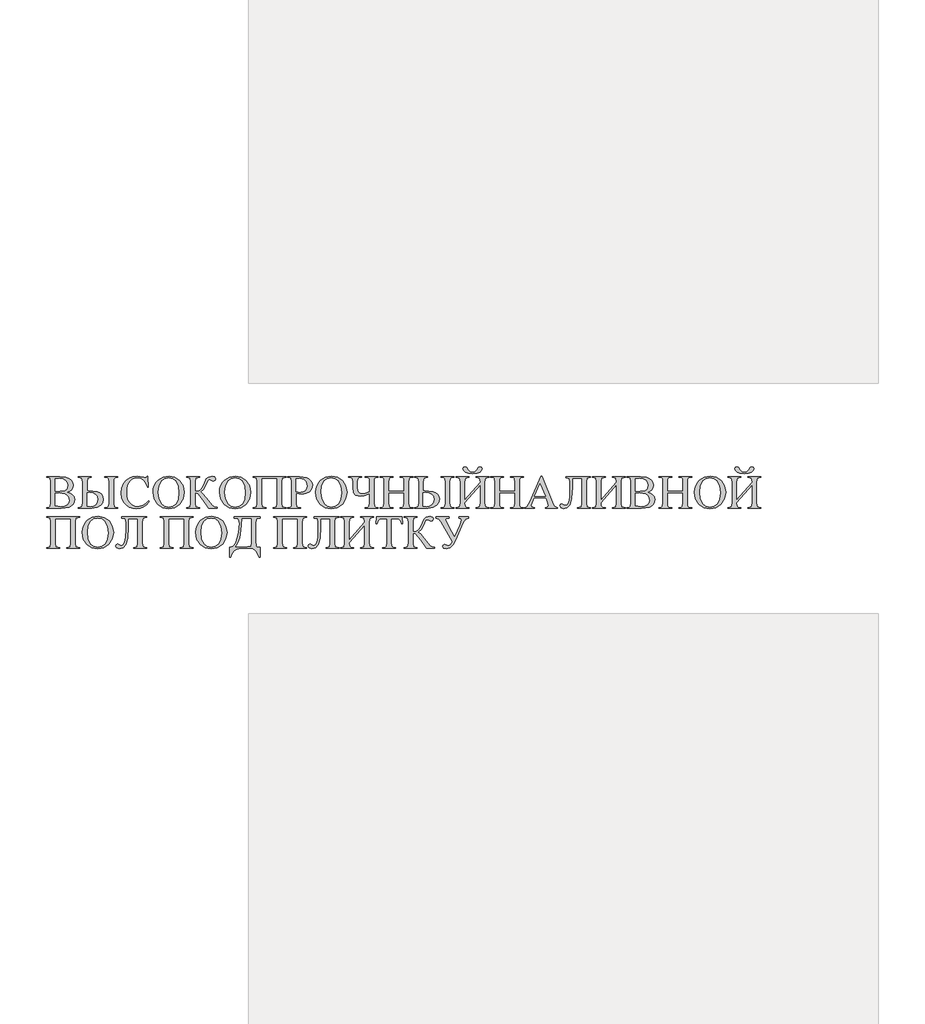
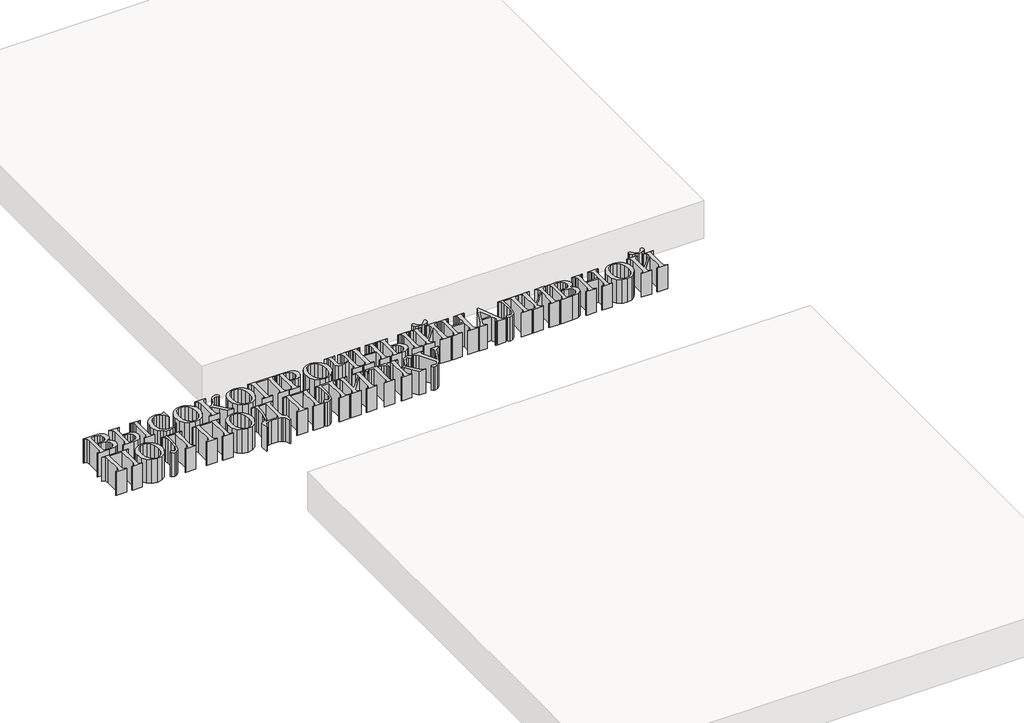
# One storey, part 8 of 17: 1 proxy.
"""IFC4 building model written with IfcOpenShell, lengths in millimetres."""

import ifcopenshell
import ifcopenshell.guid

model = None  # the IFC model being written
_history = None  # IfcOwnerHistory: only IFC2X3 demands one
_inside = {}  # id of a spatial element -> (the spatial element, [elements in it])
_under = {}  # id of a project, library or spatial element -> (it, [spatial elements below it])
_declared = {}  # id of a project -> (the project, [libraries it declares])
_typed = {}  # id of a type object -> (the type object, [elements of that type])
_made_of = {}  # id of a material, layer set ... -> (it, [elements and type objects made of it])


def new_model(schema):
    """Start an empty IFC model of exactly this schema.

    Asked for "IFC4X3", IfcOpenShell would pick the latest addendum, in which some entities
    have other attributes; the version numbers below select the first issue.
    IFC2X3 requires an IfcOwnerHistory on every rooted entity: one is made here for all.
    """
    global model, _history
    if schema == "IFC4X3":
        model = ifcopenshell.file(schema_version=(4, 3, 0, 0))
    else:
        model = ifcopenshell.file(schema=schema)
    _inside.clear()
    _under.clear()
    _declared.clear()
    _typed.clear()
    _made_of.clear()
    _history = None
    if model.schema == "IFC2X3":
        org = make("IfcOrganization", Name="unknown")
        user = make(
            "IfcPersonAndOrganization",
            ThePerson=make("IfcPerson", FamilyName="unknown"),
            TheOrganization=org,
        )
        app = make(
            "IfcApplication",
            ApplicationDeveloper=org,
            Version="unknown",
            ApplicationFullName="unknown",
            ApplicationIdentifier="unknown",
        )
        _history = make(
            "IfcOwnerHistory",
            OwningUser=user,
            OwningApplication=app,
            ChangeAction="ADDED",
            CreationDate=0,
        )
    return model


def make(cls, **values):
    """One entity of the class cls with the attributes given. An attribute that is None is left unset."""
    return model.create_entity(
        cls, **{name: value for name, value in values.items() if value is not None}
    )


def rooted(cls, **values):
    """An entity with a GlobalId (a new one), such as an element, a storey or a relation."""
    return make(cls, GlobalId=ifcopenshell.guid.new(), OwnerHistory=_history, **values)


def si_unit(unit_type, name, prefix=None):
    """IfcSIUnit, for example si_unit("LENGTHUNIT", "METRE", prefix="MILLI")."""
    return make("IfcSIUnit", UnitType=unit_type, Prefix=prefix, Name=name)


def assignment(units):
    """IfcUnitAssignment: the units of a project."""
    return None if units is None else make("IfcUnitAssignment", Units=units)


def point(xyz):
    """IfcCartesianPoint."""
    return None if xyz is None else make("IfcCartesianPoint", Coordinates=xyz)


def direction(xyz):
    """IfcDirection."""
    return None if xyz is None else make("IfcDirection", DirectionRatios=xyz)


def frame(location, z_axis=None, x_axis=None):
    """IfcAxis2Placement3D, a coordinate frame: its origin and axes. An axis left out is left unset."""
    return make(
        "IfcAxis2Placement3D",
        Location=point(location),
        Axis=direction(z_axis),
        RefDirection=direction(x_axis),
    )


def origin():
    """The frame at (0, 0, 0) with its axes left unset."""
    return frame((0.0, 0.0, 0.0))


def origin_with_axes():
    """The frame at (0, 0, 0) with the z axis (0, 0, 1) and the x axis (1, 0, 0) written out."""
    return frame((0.0, 0.0, 0.0), z_axis=(0.0, 0.0, 1.0), x_axis=(1.0, 0.0, 0.0))


def place(relative_to, where):
    """IfcLocalPlacement: puts the frame where relative to a parent placement (None: the world)."""
    return make(
        "IfcLocalPlacement", PlacementRelTo=relative_to, RelativePlacement=where
    )


def context(
    kind, dimensions, precision=None, world=None, true_north=None, identifier=None
):
    """IfcGeometricRepresentationContext, for example the 3D "Model" context."""
    return make(
        "IfcGeometricRepresentationContext",
        ContextIdentifier=identifier,
        ContextType=kind,
        CoordinateSpaceDimension=dimensions,
        Precision=precision,
        WorldCoordinateSystem=world,
        TrueNorth=true_north,
    )


def project(units=None, contexts=None):
    """IfcProject with its units and contexts."""
    return rooted(
        "IfcProject",
        Name="project",
        RepresentationContexts=contexts,
        UnitsInContext=assignment(units),
    )


def spatial(cls, under=None, at=None, **own):
    """A site, building, storey or space (cls), placed at a placement, below another one or the project."""
    s = rooted(cls, ObjectPlacement=at, **own)
    if under is not None:
        _under.setdefault(under.id(), (under, []))[1].append(s)
    return s


def polyline(points):
    """IfcPolyline through the points."""
    return make("IfcPolyline", Points=[point(p) for p in points])


def outline(outer, holes=None, kind="AREA"):
    """IfcArbitraryClosedProfileDef: a profile drawn as a closed curve; with holes, ...WithVoids."""
    if holes is None:
        return make("IfcArbitraryClosedProfileDef", ProfileType=kind, OuterCurve=outer)
    return make(
        "IfcArbitraryProfileDefWithVoids",
        ProfileType=kind,
        OuterCurve=outer,
        InnerCurves=holes,
    )


def extrude(swept, where, along, depth):
    """IfcExtrudedAreaSolid: the profile swept, set in the frame where, extruded along a direction by depth."""
    return make(
        "IfcExtrudedAreaSolid",
        SweptArea=swept,
        Position=where,
        ExtrudedDirection=direction(along),
        Depth=depth,
    )


def shape(context_of_items, identifier, shape_type, items):
    """IfcShapeRepresentation: the items that make up one representation, for example the "Body"."""
    return make(
        "IfcShapeRepresentation",
        ContextOfItems=context_of_items,
        RepresentationIdentifier=identifier,
        RepresentationType=shape_type,
        Items=items,
    )


def made_of(thing, what):
    """Note that an element or type object is made of a material, layer set ...; save() writes the relation."""
    if what is not None:
        _made_of.setdefault(what.id(), (what, []))[1].append(thing)
    return thing


def element(
    cls,
    number,
    at=None,
    inside=None,
    cuts=None,
    type_object=None,
    material=None,
    context=None,
    identifier="Body",
    shape_type=None,
    held_by="IfcProductDefinitionShape",
    body=None,
    shapes=None,
    **own,
):
    """One element of the class cls, such as IfcWall. Its Tag is "e" and its number.

    at: its placement. inside: the storey or other place that contains it. cuts: it is an
    opening in that element (IfcRelVoidsElement). A single representation is given by context,
    identifier, shape_type and body (its items); several are given by shapes. held_by: the class
    of the entity that holds the representations. save() writes the other relations.
    """
    e = rooted(cls, Tag="e%d" % number, ObjectPlacement=at, **own)
    if body is not None:
        shapes = [shape(context, identifier, shape_type, body)]
    if shapes is not None:
        e.Representation = make(held_by, Representations=shapes)
    if inside is not None:
        _inside.setdefault(inside.id(), (inside, []))[1].append(e)
    if cuts is not None:
        rooted(
            "IfcRelVoidsElement", RelatingBuildingElement=cuts, RelatedOpeningElement=e
        )
    if type_object is not None:
        _typed.setdefault(type_object.id(), (type_object, []))[1].append(e)
    return made_of(e, material)


def aggregate(whole, parts):
    """IfcRelAggregates: a whole, such as a stair, and the parts it consists of."""
    return rooted("IfcRelAggregates", RelatingObject=whole, RelatedObjects=parts)


def save(model, path):
    """Write the relations noted so far, then the file.

    IfcRelAggregates (storeys below a building ...), IfcRelContainedInSpatialStructure (elements
    in a storey), IfcRelDefinesByType, IfcRelAssociatesMaterial and IfcRelDeclares: one each for
    every whole, place, type object, material and project.
    """
    for whole, parts in _under.values():
        aggregate(whole, parts)
    for where, things in _inside.values():
        rooted(
            "IfcRelContainedInSpatialStructure",
            RelatedElements=things,
            RelatingStructure=where,
        )
    for kind, things in _typed.values():
        rooted("IfcRelDefinesByType", RelatedObjects=things, RelatingType=kind)
    for what, things in _made_of.values():
        rooted("IfcRelAssociatesMaterial", RelatedObjects=things, RelatingMaterial=what)
    for by, libraries in _declared.values():
        rooted("IfcRelDeclares", RelatingContext=by, RelatedDefinitions=libraries)
    model.write(path)


model = new_model("IFC4")

# Units and contexts
model_context = context("Model", 3, world=origin())
ifc_project = project(units=[si_unit("LENGTHUNIT", "METRE", prefix="MILLI")], contexts=[model_context])

# Site, building, storey
site = spatial("IfcSite", under=ifc_project)
building = spatial("IfcBuilding", under=site)
storey = spatial("IfcBuildingStorey", under=building, Name="Уровень 1", Elevation=0.0)

# Proxy
placement = place(None, origin())
element("IfcBuildingElementProxy", 1, Name="SG_Текст 2", ObjectType="SG_Текст 2", at=placement, inside=storey, context=model_context, shape_type="SweptSolid", body=[
    extrude(outline(polyline([(-8176.1512491, 13445.5594275), (-8162.4340903, 13441.3155558), (-8152.6591062, 13435.1005967), (-8144.5434558, 13423.9679759), (-8141.838239, 13410.602797), (-8143.5931101, 13399.8472975), (-8148.8577235, 13389.5443436), (-8157.1795336, 13380.8303274), (-8168.1059947, 13374.8416411), (-8205.4762015, 13370.2156198), (-8275.7112726, 13370.2156198), (-8275.7112726, 13372.7901012), (-8270.3611784, 13372.7901012), (-8262.688017, 13374.3287561), (-8257.5289976, 13378.9447209), (-8255.1154213, 13395.960434), (-8255.1154213, 13493.7907277), (-8258.1726179, 13511.9327764), (-8270.3611784, 13516.9610604), (-8275.7112726, 13516.9610604), (-8275.7112726, 13519.5355419), (-8211.8319525, 13519.5355419), (-8183.1506205, 13516.8806079), (-8168.7194454, 13511.3142975), (-8158.1701055, 13502.6606207), (-8151.7137888, 13491.6939333), (-8149.5616833, 13479.1885909), (-8151.2461584, 13468.4381197), (-8156.2995838, 13458.8743235), (-8164.6314505, 13451.0603702), (-8176.1512491, 13445.5594275)]), holes=[polyline([(-8234.5195699, 13451.5933683), (-8225.1066223, 13450.4268064), (-8213.4812296, 13450.0245437), (-8189.0035431, 13453.5242293), (-8182.1751334, 13457.9491193), (-8178.0619971, 13464.2244177), (-8175.3064974, 13479.9931164), (-8177.8709223, 13492.2168748), (-8185.5641968, 13502.4997156), (-8198.1751331, 13509.4840021), (-8215.4925432, 13511.8120976), (-8234.5195699, 13509.358295), (-8234.5195699, 13451.5933683)]), polyline([(-8234.5195699, 13380.8755819), (-8208.9758872, 13377.9390641), (-8191.18079, 13380.1565373), (-8178.1826759, 13386.8089571), (-8170.2329588, 13396.7197048), (-8167.5830532, 13408.7121622), (-8172.430319, 13425.2250469), (-8178.7659568, 13432.3249839), (-8188.0783388, 13437.7354175), (-8214.8086966, 13442.3010994), (-8226.6151075, 13442.0798549), (-8234.5195699, 13441.3356689), (-8234.5195699, 13380.8755819)])]), origin_with_axes(), (0.0, 0.0, 1.0), 150.0),
    extrude(outline(polyline([(-8082.6251665, 13452.5990251), (-8076.5107731, 13452.5990251), (-8035.1983917, 13449.1194525), (-8023.2260475, 13444.045914), (-8013.6974493, 13435.7844433), (-8007.4674054, 13424.943463), (-8005.3907241, 13412.1313953), (-8008.4831187, 13396.4582341), (-8017.7603027, 13382.8265561), (-8034.6100825, 13373.3683539), (-8060.4202643, 13370.2156198), (-8123.8168691, 13370.2156198), (-8123.8168691, 13372.7901012), (-8106.9017217, 13377.194878), (-8103.2210178, 13395.960434), (-8103.2210178, 13493.7907277), (-8106.9017217, 13512.5562836), (-8123.8168691, 13516.9610604), (-8123.8168691, 13519.5355419), (-8062.0293152, 13519.5355419), (-8062.0293152, 13516.9610604), (-8078.9444626, 13512.5562836), (-8082.6251665, 13493.7907277), (-8082.6251665, 13452.5990251)]), holes=[polyline([(-8082.6251665, 13379.5078887), (-8067.2587306, 13377.9390641), (-8054.1198244, 13380.2118484), (-8042.2983287, 13387.0302016), (-8033.9262358, 13397.8611253), (-8031.1355382, 13412.1716216), (-8034.0519429, 13426.6681644), (-8042.8011571, 13436.8504396), (-8056.0356006, 13442.8692955), (-8072.4076934, 13444.8755808), (-8082.6251665, 13443.9906028), (-8082.6251665, 13379.5078887)])]), origin_with_axes(), (0.0, 0.0, 1.0), 150.0),
    extrude(outline(polyline([(-7935.8797259, 13372.7901012), (-7935.8797259, 13370.2156198), (-7997.6672798, 13370.2156198), (-7997.6672798, 13372.7901012), (-7993.403295, 13372.7901012), (-7983.4472926, 13375.0628856), (-7978.2983298, 13380.9962607), (-7977.0714285, 13395.960434), (-7977.0714285, 13494.1929904), (-7978.3988955, 13508.9962586), (-7983.6081977, 13514.9497468), (-7994.3687255, 13516.9610604), (-7997.6672798, 13516.9610604), (-7997.6672798, 13519.5355419), (-7935.8797259, 13519.5355419), (-7935.8797259, 13516.9610604), (-7939.0576014, 13516.9610604), (-7949.6773372, 13514.9095206), (-7955.0475445, 13508.915806), (-7956.4755772, 13493.7907277), (-7956.4755772, 13395.960434), (-7953.1770229, 13377.4764619), (-7947.9978903, 13373.9616914), (-7939.0576014, 13372.7901012), (-7935.8797259, 13372.7901012)])), origin_with_axes(), (0.0, 0.0, 1.0), 150.0),
    extrude(outline(polyline([(-7794.2832481, 13522.1100233), (-7791.7087667, 13470.620395), (-7794.2832481, 13470.620395), (-7802.3938702, 13490.6480502), (-7813.3706142, 13504.1489928), (-7827.0123487, 13511.8271825), (-7843.1179424, 13514.386579), (-7856.9809214, 13512.5311422), (-7869.4460375, 13506.9648318), (-7879.9551511, 13497.3306397), (-7887.9501227, 13483.2715576), (-7893.0035481, 13465.0138583), (-7894.6880232, 13442.7838147), (-7893.0840006, 13424.1590507), (-7888.2719328, 13408.1892207), (-7880.2317067, 13395.2564742), (-7868.9432091, 13385.7429608), (-7855.1254846, 13379.8900383), (-7839.4975779, 13377.9390641), (-7814.1349134, 13383.6310816), (-7802.5950015, 13392.1339098), (-7789.979037, 13406.2583596), (-7786.5598038, 13403.6838782), (-7798.67294, 13387.4877754), (-7812.6465413, 13376.3099), (-7828.9532663, 13369.8083288), (-7848.0657739, 13367.6411384), (-7865.506377, 13369.3432125), (-7880.8602422, 13374.449435), (-7894.1273696, 13382.9598056), (-7905.3077591, 13394.8743246), (-7916.6515678, 13416.9384349), (-7920.4328374, 13442.5826833), (-7917.9337802, 13463.8070701), (-7910.4366088, 13483.2313313), (-7898.5547736, 13499.6687917), (-7882.9017255, 13511.9327764), (-7864.5484889, 13519.5657116), (-7844.5660882, 13522.1100233), (-7812.7068807, 13516.1967613), (-7806.1097721, 13514.386579), (-7800.920583, 13515.9554036), (-7796.8577295, 13522.1100233), (-7794.2832481, 13522.1100233)])), origin_with_axes(), (0.0, 0.0, 1.0), 150.0),
    extrude(outline(polyline([(-7692.4303271, 13522.1100233), (-7664.7244822, 13516.6493068), (-7640.9809251, 13500.2671575), (-7624.6591152, 13475.719075), (-7619.2185119, 13445.7605588), (-7624.6993415, 13414.9522627), (-7641.1418302, 13389.8661537), (-7665.3681026, 13373.1973922), (-7694.2002831, 13367.6411384), (-7723.1782839, 13373.0616286), (-7747.117944, 13389.3230991), (-7763.1833115, 13414.1929918), (-7768.5384339, 13445.4387486), (-7766.9922366, 13462.21059), (-7762.3536446, 13477.3683521), (-7754.6226579, 13490.9120351), (-7743.7992766, 13502.8416389), (-7720.2166246, 13517.2929272), (-7692.4303271, 13522.1100233)]), holes=[polyline([(-7694.5623195, 13514.386579), (-7713.0060653, 13510.7058751), (-7727.3869576, 13499.6637634), (-7738.9419542, 13477.0666551), (-7742.7936198, 13445.9616902), (-7738.8011623, 13413.9214645), (-7726.8237898, 13390.2080771), (-7712.593746, 13379.0754562), (-7694.4416407, 13375.3645826), (-7674.8313331, 13379.4274361), (-7658.9620687, 13391.6159966), (-7648.4630117, 13412.5638278), (-7644.963326, 13442.9044935), (-7648.8149916, 13476.0509417), (-7660.3699883, 13499.5430846), (-7675.0928038, 13510.6757054), (-7694.5623195, 13514.386579)])]), origin_with_axes(), (0.0, 0.0, 1.0), 150.0),
    extrude(outline(polyline([(-7463.5428389, 13374.3186996), (-7463.5428389, 13370.2156198), (-7502.5220965, 13370.2156198), (-7529.3127937, 13408.0484287), (-7554.2128562, 13439.0226582), (-7567.7288836, 13442.3010994), (-7567.7288836, 13395.960434), (-7564.1085191, 13377.194878), (-7547.1330323, 13372.7901012), (-7547.1330323, 13370.2156198), (-7608.9205862, 13370.2156198), (-7608.9205862, 13372.7901012), (-7592.0456651, 13377.1546518), (-7588.3247349, 13395.960434), (-7588.3247349, 13493.7907277), (-7592.0054388, 13512.5562836), (-7608.9205862, 13516.9610604), (-7608.9205862, 13519.5355419), (-7547.1330323, 13519.5355419), (-7547.1330323, 13516.9610604), (-7564.1085191, 13512.5562836), (-7567.7288836, 13493.7907277), (-7567.7288836, 13450.0245437), (-7550.8539625, 13451.6537077), (-7540.3146792, 13458.5726265), (-7531.0425234, 13470.2181323), (-7522.2731961, 13490.733531), (-7514.0670366, 13509.358295), (-7503.8495635, 13518.3488668), (-7487.1154343, 13522.1100233), (-7474.202801, 13519.0126003), (-7469.8985899, 13509.7203315), (-7473.2977098, 13502.1577923), (-7481.0814935, 13498.9396905), (-7491.5805505, 13503.002544), (-7500.5912355, 13506.6631348), (-7506.7458551, 13502.9220915), (-7514.9117883, 13483.8548385), (-7527.1003488, 13460.4733178), (-7542.2656534, 13447.5305148), (-7531.565465, 13438.7410743), (-7515.6358612, 13418.9698616), (-7486.5522665, 13383.4098371), (-7476.0934358, 13376.7322759), (-7463.5428389, 13374.3186996)])), origin_with_axes(), (0.0, 0.0, 1.0), 150.0),
    extrude(outline(polyline([(-7375.7691131, 13522.1100233), (-7348.0632682, 13516.6493068), (-7324.3197111, 13500.2671575), (-7307.9979012, 13475.719075), (-7302.5572979, 13445.7605588), (-7308.0381275, 13414.9522627), (-7324.4806162, 13389.8661537), (-7348.7068886, 13373.1973922), (-7377.5390691, 13367.6411384), (-7406.5170699, 13373.0616286), (-7430.4567301, 13389.3230991), (-7446.5220975, 13414.1929918), (-7451.87722, 13445.4387486), (-7450.3310226, 13462.21059), (-7445.6924306, 13477.3683521), (-7437.961444, 13490.9120351), (-7427.1380626, 13502.8416389), (-7403.5554106, 13517.2929272), (-7375.7691131, 13522.1100233)]), holes=[polyline([(-7377.9011056, 13514.386579), (-7396.3448513, 13510.7058751), (-7410.7257436, 13499.6637634), (-7422.2807403, 13477.0666551), (-7426.1324058, 13445.9616902), (-7422.1399483, 13413.9214645), (-7410.1625758, 13390.2080771), (-7395.932532, 13379.0754562), (-7377.7804267, 13375.3645826), (-7358.1701191, 13379.4274361), (-7342.3008548, 13391.6159966), (-7331.8017977, 13412.5638278), (-7328.3021121, 13442.9044935), (-7332.1537776, 13476.0509417), (-7343.7087743, 13499.5430846), (-7358.4315899, 13510.6757054), (-7377.9011056, 13514.386579)])]), origin_with_axes(), (0.0, 0.0, 1.0), 150.0),
    extrude(outline(polyline([(-7176.4077086, 13511.8120976), (-7251.0676696, 13511.8120976), (-7251.0676696, 13395.960434), (-7247.4473051, 13377.194878), (-7230.4718183, 13372.7901012), (-7230.4718183, 13370.2156198), (-7292.2593723, 13370.2156198), (-7292.2593723, 13372.7901012), (-7275.3442248, 13377.194878), (-7271.6635209, 13395.960434), (-7271.6635209, 13493.7907277), (-7275.3442248, 13512.5562836), (-7292.2593723, 13516.9610604), (-7292.2593723, 13519.5355419), (-7135.216006, 13519.5355419), (-7135.216006, 13516.9610604), (-7152.1311534, 13512.5562836), (-7155.8118573, 13493.7907277), (-7155.8118573, 13395.960434), (-7152.1311534, 13377.194878), (-7135.216006, 13372.7901012), (-7135.216006, 13370.2156198), (-7197.0035599, 13370.2156198), (-7197.0035599, 13372.7901012), (-7180.1085256, 13377.1546518), (-7176.4077086, 13395.960434), (-7176.4077086, 13511.8120976)])), origin_with_axes(), (0.0, 0.0, 1.0), 150.0),
    extrude(outline(polyline([(-7086.3008591, 13440.4909172), (-7086.3008591, 13395.960434), (-7083.324115, 13377.8183852), (-7071.2160071, 13372.7901012), (-7065.7050078, 13372.7901012), (-7065.7050078, 13370.2156198), (-7127.4925617, 13370.2156198), (-7127.4925617, 13372.7901012), (-7122.062015, 13372.7901012), (-7114.2380051, 13374.3890955), (-7109.0287028, 13379.1860785), (-7106.8967104, 13395.960434), (-7106.8967104, 13493.7907277), (-7109.7527757, 13511.9327764), (-7122.062015, 13516.9610604), (-7127.4925617, 13516.9610604), (-7127.4925617, 13519.5355419), (-7070.5321604, 13519.5355419), (-7037.6069567, 13515.412349), (-7026.5095339, 13509.87118), (-7017.3128025, 13501.4940588), (-7011.1280131, 13490.7988987), (-7009.0664167, 13478.303613), (-7012.3348013, 13461.7454737), (-7022.1399551, 13448.596511), (-7037.9086538, 13440.0132302), (-7059.0676729, 13437.1521366), (-7071.7389486, 13437.9968883), (-7086.3008591, 13440.4909172)]), holes=[polyline([(-7086.3008591, 13447.0880258), (-7074.755919, 13445.4387486), (-7066.1474968, 13444.8755808), (-7054.235492, 13447.1081389), (-7044.0833865, 13453.8058132), (-7037.1292697, 13464.0635126), (-7034.8112308, 13476.976146), (-7039.2361207, 13495.0980816), (-7051.7666045, 13507.6486784), (-7070.2103503, 13511.8120976), (-7086.3008591, 13509.7203315), (-7086.3008591, 13447.0880258)])]), origin_with_axes(), (0.0, 0.0, 1.0), 150.0),
    extrude(outline(polyline([(-6917.5114214, 13522.1100233), (-6889.8055765, 13516.6493068), (-6866.0620194, 13500.2671575), (-6849.7402094, 13475.719075), (-6844.2996061, 13445.7605588), (-6849.7804357, 13414.9522627), (-6866.2229244, 13389.8661537), (-6890.4491968, 13373.1973922), (-6919.2813773, 13367.6411384), (-6948.2593781, 13373.0616286), (-6972.1990383, 13389.3230991), (-6988.2644057, 13414.1929918), (-6993.6195282, 13445.4387486), (-6992.0733308, 13462.21059), (-6987.4347388, 13477.3683521), (-6979.7037522, 13490.9120351), (-6968.8803708, 13502.8416389), (-6945.2977188, 13517.2929272), (-6917.5114214, 13522.1100233)]), holes=[polyline([(-6919.6434138, 13514.386579), (-6938.0871595, 13510.7058751), (-6952.4680518, 13499.6637634), (-6964.0230485, 13477.0666551), (-6967.874714, 13445.9616902), (-6963.8822565, 13413.9214645), (-6951.904884, 13390.2080771), (-6937.6748403, 13379.0754562), (-6919.522735, 13375.3645826), (-6899.9124273, 13379.4274361), (-6884.043163, 13391.6159966), (-6873.544106, 13412.5638278), (-6870.0444203, 13442.9044935), (-6873.8960858, 13476.0509417), (-6885.4510825, 13499.5430846), (-6900.1738981, 13510.6757054), (-6919.6434138, 13514.386579)])]), origin_with_axes(), (0.0, 0.0, 1.0), 150.0),
    extrude(outline(polyline([(-6736.1713867, 13447.4500622), (-6736.1713867, 13493.7907277), (-6737.6396457, 13509.6801052), (-6743.6333602, 13515.0100862), (-6756.7672381, 13516.9610604), (-6756.7672381, 13519.5355419), (-6694.9796841, 13519.5355419), (-6694.9796841, 13516.9610604), (-6708.2141276, 13515.0100862), (-6714.1072765, 13509.4588607), (-6715.5755354, 13493.7907277), (-6715.5755354, 13395.960434), (-6713.8458057, 13379.8095857), (-6707.9526569, 13374.680736), (-6694.9796841, 13372.7901012), (-6694.9796841, 13370.2156198), (-6756.7672381, 13370.2156198), (-6756.7672381, 13372.7901012), (-6743.4121157, 13374.7813017), (-6737.7402113, 13380.0107171), (-6736.1713867, 13395.960434), (-6736.1713867, 13439.726618), (-6761.6647867, 13430.0723127), (-6781.9891107, 13426.8542109), (-6803.5503925, 13432.0836263), (-6813.9086576, 13443.5078876), (-6815.9803106, 13468.1665924), (-6815.9803106, 13493.7907277), (-6817.5089089, 13509.6398789), (-6823.6031891, 13515.0704257), (-6836.5761619, 13516.9610604), (-6836.5761619, 13519.5355419), (-6774.788608, 13519.5355419), (-6774.788608, 13516.9610604), (-6788.3247485, 13514.8894074), (-6794.1977842, 13508.6945615), (-6795.3844593, 13493.388465), (-6795.3844593, 13472.7926137), (-6793.6949558, 13452.2772149), (-6786.7961502, 13442.9648329), (-6773.5818198, 13439.726618), (-6755.7414681, 13441.6574791), (-6736.1713867, 13447.4500622)])), origin_with_axes(), (0.0, 0.0, 1.0), 150.0),
    extrude(outline(polyline([(-6646.0645372, 13450.0245437), (-6571.4045762, 13450.0245437), (-6571.4045762, 13493.7907277), (-6572.7722695, 13509.358295), (-6577.2373857, 13514.2256739), (-6586.891691, 13516.9610604), (-6592.0004275, 13516.9610604), (-6592.0004275, 13519.5355419), (-6530.2128736, 13519.5355419), (-6530.2128736, 13516.9610604), (-6535.3216101, 13516.9610604), (-6544.9759154, 13514.3463528), (-6549.5818236, 13508.8353535), (-6550.8087249, 13493.7907277), (-6550.8087249, 13395.960434), (-6549.4410316, 13380.4330929), (-6545.056368, 13375.5254877), (-6535.3216101, 13372.7901012), (-6530.2128736, 13372.7901012), (-6530.2128736, 13370.2156198), (-6592.0004275, 13370.2156198), (-6592.0004275, 13372.7901012), (-6586.891691, 13372.7901012), (-6579.278869, 13374.1879642), (-6574.0595102, 13378.3815531), (-6571.4045762, 13395.960434), (-6571.4045762, 13442.3010994), (-6646.0645372, 13442.3010994), (-6646.0645372, 13395.960434), (-6644.696844, 13380.4330929), (-6640.271954, 13375.5254877), (-6630.657875, 13372.7901012), (-6625.4686859, 13372.7901012), (-6625.4686859, 13370.2156198), (-6687.2562399, 13370.2156198), (-6687.2562399, 13372.7901012), (-6682.1475033, 13372.7901012), (-6674.4642853, 13374.1879642), (-6669.1946437, 13378.3815531), (-6666.6603885, 13395.960434), (-6666.6603885, 13493.7907277), (-6668.0280818, 13509.358295), (-6672.4127455, 13514.2256739), (-6682.1475033, 13516.9610604), (-6687.2562399, 13516.9610604), (-6687.2562399, 13519.5355419), (-6625.4686859, 13519.5355419), (-6625.4686859, 13516.9610604), (-6630.657875, 13516.9610604), (-6640.271954, 13514.3463528), (-6644.7974097, 13508.8353535), (-6646.0645372, 13493.7907277), (-6646.0645372, 13450.0245437)])), origin_with_axes(), (0.0, 0.0, 1.0), 150.0),
    extrude(outline(polyline([(-6481.2977267, 13452.5990251), (-6475.1833333, 13452.5990251), (-6433.8709519, 13449.1194525), (-6421.8986077, 13444.045914), (-6412.3700095, 13435.7844433), (-6406.1399656, 13424.943463), (-6404.0632843, 13412.1313953), (-6407.1556789, 13396.4582341), (-6416.4328629, 13382.8265561), (-6433.2826427, 13373.3683539), (-6459.0928245, 13370.2156198), (-6522.4894293, 13370.2156198), (-6522.4894293, 13372.7901012), (-6505.5742819, 13377.194878), (-6501.893578, 13395.960434), (-6501.893578, 13493.7907277), (-6505.5742819, 13512.5562836), (-6522.4894293, 13516.9610604), (-6522.4894293, 13519.5355419), (-6460.7018754, 13519.5355419), (-6460.7018754, 13516.9610604), (-6477.6170228, 13512.5562836), (-6481.2977267, 13493.7907277), (-6481.2977267, 13452.5990251)]), holes=[polyline([(-6481.2977267, 13379.5078887), (-6465.9312908, 13377.9390641), (-6452.7923846, 13380.2118484), (-6440.9708889, 13387.0302016), (-6432.598796, 13397.8611253), (-6429.8080984, 13412.1716216), (-6432.7245031, 13426.6681644), (-6441.4737173, 13436.8504396), (-6454.7081608, 13442.8692955), (-6471.0802536, 13444.8755808), (-6481.2977267, 13443.9906028), (-6481.2977267, 13379.5078887)])]), origin_with_axes(), (0.0, 0.0, 1.0), 150.0),
    extrude(outline(polyline([(-6334.5522861, 13372.7901012), (-6334.5522861, 13370.2156198), (-6396.33984, 13370.2156198), (-6396.33984, 13372.7901012), (-6392.0758552, 13372.7901012), (-6382.1198528, 13375.0628856), (-6376.97089, 13380.9962607), (-6375.7439887, 13395.960434), (-6375.7439887, 13494.1929904), (-6377.0714557, 13508.9962586), (-6382.2807579, 13514.9497468), (-6393.0412857, 13516.9610604), (-6396.33984, 13516.9610604), (-6396.33984, 13519.5355419), (-6334.5522861, 13519.5355419), (-6334.5522861, 13516.9610604), (-6337.7301616, 13516.9610604), (-6348.3498974, 13514.9095206), (-6353.7201047, 13508.915806), (-6355.1481374, 13493.7907277), (-6355.1481374, 13395.960434), (-6351.8495831, 13377.4764619), (-6346.6704506, 13373.9616914), (-6337.7301616, 13372.7901012), (-6334.5522861, 13372.7901012)])), origin_with_axes(), (0.0, 0.0, 1.0), 150.0),
    extrude(outline(polyline([(-6209.6094849, 13568.4506887), (-6203.3140734, 13565.5543971), (-6200.6792525, 13558.7159309), (-6203.379441, 13549.6650197), (-6211.4800066, 13541.9818017), (-6225.4435513, 13536.7322732), (-6245.7326773, 13534.9824303), (-6266.0972275, 13536.7322732), (-6280.0456874, 13541.9818017), (-6288.1009984, 13549.6650197), (-6290.786102, 13558.7159309), (-6288.2116206, 13565.4940577), (-6281.7351908, 13568.4506887), (-6275.1179691, 13565.6951891), (-6267.3341854, 13553.5267418), (-6258.4140096, 13543.4802303), (-6245.7326773, 13540.1313932), (-6233.1116844, 13543.4802303), (-6224.1311692, 13553.5267418), (-6216.5284037, 13565.7555285), (-6209.6094849, 13568.4506887)])), origin_with_axes(), (0.0, 0.0, 1.0), 150.0),
    extrude(outline(polyline([(-6208.4026968, 13493.7907277), (-6212.4856634, 13512.9384332), (-6228.9985481, 13516.9610604), (-6228.9985481, 13519.5355419), (-6167.2109941, 13519.5355419), (-6167.2109941, 13516.9610604), (-6184.1261416, 13512.5562836), (-6187.8068455, 13493.7907277), (-6187.8068455, 13395.960434), (-6184.1261416, 13377.194878), (-6167.2109941, 13372.7901012), (-6167.2109941, 13370.2156198), (-6228.9985481, 13370.2156198), (-6228.9985481, 13372.7901012), (-6212.0230613, 13377.2552174), (-6208.4026968, 13395.960434), (-6208.4026968, 13480.9183206), (-6283.0626578, 13395.960434), (-6281.8558696, 13381.1370527), (-6276.7471331, 13375.2036776), (-6262.4668065, 13372.7901012), (-6262.4668065, 13370.2156198), (-6324.2543604, 13370.2156198), (-6324.2543604, 13372.7901012), (-6307.339213, 13377.194878), (-6303.6585091, 13395.960434), (-6303.6585091, 13493.7907277), (-6307.339213, 13512.5562836), (-6324.2543604, 13516.9610604), (-6324.2543604, 13519.5355419), (-6262.4668065, 13519.5355419), (-6262.4668065, 13516.9610604), (-6279.402067, 13512.5562836), (-6283.0626578, 13493.7907277), (-6283.0626578, 13408.832841), (-6208.4026968, 13493.7907277)])), origin_with_axes(), (0.0, 0.0, 1.0), 150.0),
    extrude(outline(polyline([(-6118.2958473, 13450.0245437), (-6043.6358863, 13450.0245437), (-6043.6358863, 13493.7907277), (-6045.0035795, 13509.358295), (-6049.4686957, 13514.2256739), (-6059.123001, 13516.9610604), (-6064.2317376, 13516.9610604), (-6064.2317376, 13519.5355419), (-6002.4441836, 13519.5355419), (-6002.4441836, 13516.9610604), (-6007.5529202, 13516.9610604), (-6017.2072255, 13514.3463528), (-6021.8131336, 13508.8353535), (-6023.0400349, 13493.7907277), (-6023.0400349, 13395.960434), (-6021.6723417, 13380.4330929), (-6017.287678, 13375.5254877), (-6007.5529202, 13372.7901012), (-6002.4441836, 13372.7901012), (-6002.4441836, 13370.2156198), (-6064.2317376, 13370.2156198), (-6064.2317376, 13372.7901012), (-6059.123001, 13372.7901012), (-6051.510179, 13374.1879642), (-6046.2908202, 13378.3815531), (-6043.6358863, 13395.960434), (-6043.6358863, 13442.3010994), (-6118.2958473, 13442.3010994), (-6118.2958473, 13395.960434), (-6116.928154, 13380.4330929), (-6112.5032641, 13375.5254877), (-6102.8891851, 13372.7901012), (-6097.699996, 13372.7901012), (-6097.699996, 13370.2156198), (-6159.4875499, 13370.2156198), (-6159.4875499, 13372.7901012), (-6154.3788133, 13372.7901012), (-6146.6955954, 13374.1879642), (-6141.4259537, 13378.3815531), (-6138.8916986, 13395.960434), (-6138.8916986, 13493.7907277), (-6140.2593918, 13509.358295), (-6144.6440555, 13514.2256739), (-6154.3788133, 13516.9610604), (-6159.4875499, 13516.9610604), (-6159.4875499, 13519.5355419), (-6097.699996, 13519.5355419), (-6097.699996, 13516.9610604), (-6102.8891851, 13516.9610604), (-6112.5032641, 13514.3463528), (-6117.0287197, 13508.8353535), (-6118.2958473, 13493.7907277), (-6118.2958473, 13450.0245437)])), origin_with_axes(), (0.0, 0.0, 1.0), 150.0),
    extrude(outline(polyline([(-5895.9652414, 13419.1307667), (-5954.2128834, 13419.1307667), (-5963.8269624, 13396.7649594), (-5967.5680057, 13382.8466693), (-5964.3096777, 13376.4104657), (-5950.2304824, 13372.7901012), (-5950.2304824, 13370.2156198), (-5997.6974835, 13370.2156198), (-5997.6974835, 13372.7901012), (-5985.5491493, 13377.4563488), (-5973.0387787, 13400.8278129), (-5920.6641724, 13522.1100233), (-5915.1531732, 13522.1100233), (-5865.9966687, 13398.8567256), (-5854.5321811, 13378.1401954), (-5840.2116282, 13372.7901012), (-5840.2116282, 13370.2156198), (-5899.2235694, 13370.2156198), (-5899.2235694, 13372.7901012), (-5887.1355746, 13376.1087687), (-5883.9778123, 13383.0075743), (-5888.4027022, 13400.1439663), (-5895.9652414, 13419.1307667)]), holes=[polyline([(-5899.0626643, 13426.8542109), (-5923.9225005, 13487.475203), (-5950.8741028, 13426.8542109), (-5899.0626643, 13426.8542109)])]), origin_with_axes(), (0.0, 0.0, 1.0), 150.0),
    extrude(outline(polyline([(-5724.4001909, 13511.8120976), (-5770.7408563, 13511.8120976), (-5770.7408563, 13469.6147382), (-5773.5265257, 13416.9434631), (-5781.8835337, 13386.6882782), (-5795.1380903, 13372.4029234), (-5812.6164056, 13367.6411384), (-5825.4485864, 13371.6235393), (-5829.9539289, 13380.8755819), (-5827.0576373, 13387.8548401), (-5820.0180396, 13390.8114711), (-5812.093464, 13387.1508804), (-5803.0425528, 13383.0880269), (-5794.2078578, 13387.0855127), (-5787.1732885, 13399.07797), (-5782.5724086, 13422.2231614), (-5781.038782, 13459.678849), (-5781.038782, 13491.1357938), (-5784.7194859, 13509.9616891), (-5801.6346333, 13514.386579), (-5801.6346333, 13519.5355419), (-5683.2084882, 13519.5355419), (-5683.2084882, 13516.9610604), (-5700.1236356, 13512.5562836), (-5703.8043395, 13493.7907277), (-5703.8043395, 13395.960434), (-5700.1236356, 13377.194878), (-5683.2084882, 13372.7901012), (-5683.2084882, 13370.2156198), (-5744.9960422, 13370.2156198), (-5744.9960422, 13372.7901012), (-5728.0808948, 13377.194878), (-5724.4001909, 13395.960434), (-5724.4001909, 13511.8120976)])), origin_with_axes(), (0.0, 0.0, 1.0), 150.0),
    extrude(outline(polyline([(-5559.6333803, 13493.7907277), (-5563.716347, 13512.9384332), (-5580.2292316, 13516.9610604), (-5580.2292316, 13519.5355419), (-5518.4416777, 13519.5355419), (-5518.4416777, 13516.9610604), (-5535.3568251, 13512.5562836), (-5539.037529, 13493.7907277), (-5539.037529, 13395.960434), (-5535.3568251, 13377.194878), (-5518.4416777, 13372.7901012), (-5518.4416777, 13370.2156198), (-5580.2292316, 13370.2156198), (-5580.2292316, 13372.7901012), (-5563.2537448, 13377.2552174), (-5559.6333803, 13395.960434), (-5559.6333803, 13480.9183206), (-5634.2933414, 13395.960434), (-5633.0865532, 13381.1370527), (-5627.9778166, 13375.2036776), (-5613.69749, 13372.7901012), (-5613.69749, 13370.2156198), (-5675.485044, 13370.2156198), (-5675.485044, 13372.7901012), (-5658.5698966, 13377.194878), (-5654.8891927, 13395.960434), (-5654.8891927, 13493.7907277), (-5658.5698966, 13512.5562836), (-5675.485044, 13516.9610604), (-5675.485044, 13519.5355419), (-5613.69749, 13519.5355419), (-5613.69749, 13516.9610604), (-5630.6327506, 13512.5562836), (-5634.2933414, 13493.7907277), (-5634.2933414, 13408.832841), (-5559.6333803, 13493.7907277)])), origin_with_axes(), (0.0, 0.0, 1.0), 150.0),
    extrude(outline(polyline([(-5411.15821, 13445.5594275), (-5397.4410512, 13441.3155558), (-5387.6660671, 13435.1005967), (-5379.5504167, 13423.9679759), (-5376.8451999, 13410.602797), (-5378.600071, 13399.8472975), (-5383.8646844, 13389.5443436), (-5392.1864944, 13380.8303274), (-5403.1129556, 13374.8416411), (-5440.4831624, 13370.2156198), (-5510.7182335, 13370.2156198), (-5510.7182335, 13372.7901012), (-5505.3681393, 13372.7901012), (-5497.6949779, 13374.3287561), (-5492.5359585, 13378.9447209), (-5490.1223821, 13395.960434), (-5490.1223821, 13493.7907277), (-5493.1795788, 13511.9327764), (-5505.3681393, 13516.9610604), (-5510.7182335, 13516.9610604), (-5510.7182335, 13519.5355419), (-5446.8389134, 13519.5355419), (-5418.1575814, 13516.8806079), (-5403.7264062, 13511.3142975), (-5393.1770664, 13502.6606207), (-5386.7207497, 13491.6939333), (-5384.5686442, 13479.1885909), (-5386.2531193, 13468.4381197), (-5391.3065447, 13458.8743235), (-5399.6384113, 13451.0603702), (-5411.15821, 13445.5594275)]), holes=[polyline([(-5469.5265308, 13380.8755819), (-5443.982848, 13377.9390641), (-5426.1877509, 13380.1565373), (-5413.1896368, 13386.8089571), (-5405.2399197, 13396.7197048), (-5402.5900141, 13408.7121622), (-5407.4372798, 13425.2250469), (-5413.7729177, 13432.3249839), (-5423.0852997, 13437.7354175), (-5449.8156575, 13442.3010994), (-5461.6220684, 13442.0798549), (-5469.5265308, 13441.3356689), (-5469.5265308, 13380.8755819)]), polyline([(-5469.5265308, 13451.5933683), (-5460.1135832, 13450.4268064), (-5448.4881905, 13450.0245437), (-5424.0105039, 13453.5242293), (-5417.1820943, 13457.9491193), (-5413.0689579, 13464.2244177), (-5410.3134583, 13479.9931164), (-5412.8778831, 13492.2168748), (-5420.5711577, 13502.4997156), (-5433.182094, 13509.4840021), (-5450.4995041, 13511.8120976), (-5469.5265308, 13509.358295), (-5469.5265308, 13451.5933683)])]), origin_with_axes(), (0.0, 0.0, 1.0), 150.0),
    extrude(outline(polyline([(-5317.6321274, 13450.0245437), (-5242.9721664, 13450.0245437), (-5242.9721664, 13493.7907277), (-5244.3398596, 13509.358295), (-5248.8049758, 13514.2256739), (-5258.4592811, 13516.9610604), (-5263.5680177, 13516.9610604), (-5263.5680177, 13519.5355419), (-5201.7804637, 13519.5355419), (-5201.7804637, 13516.9610604), (-5206.8892003, 13516.9610604), (-5216.5435056, 13514.3463528), (-5221.1494137, 13508.8353535), (-5222.376315, 13493.7907277), (-5222.376315, 13395.960434), (-5221.0086218, 13380.4330929), (-5216.6239581, 13375.5254877), (-5206.8892003, 13372.7901012), (-5201.7804637, 13372.7901012), (-5201.7804637, 13370.2156198), (-5263.5680177, 13370.2156198), (-5263.5680177, 13372.7901012), (-5258.4592811, 13372.7901012), (-5250.8464591, 13374.1879642), (-5245.6271003, 13378.3815531), (-5242.9721664, 13395.960434), (-5242.9721664, 13442.3010994), (-5317.6321274, 13442.3010994), (-5317.6321274, 13395.960434), (-5316.2644341, 13380.4330929), (-5311.8395442, 13375.5254877), (-5302.2254652, 13372.7901012), (-5297.0362761, 13372.7901012), (-5297.0362761, 13370.2156198), (-5358.82383, 13370.2156198), (-5358.82383, 13372.7901012), (-5353.7150934, 13372.7901012), (-5346.0318755, 13374.1879642), (-5340.7622338, 13378.3815531), (-5338.2279787, 13395.960434), (-5338.2279787, 13493.7907277), (-5339.5956719, 13509.358295), (-5343.9803356, 13514.2256739), (-5353.7150934, 13516.9610604), (-5358.82383, 13516.9610604), (-5358.82383, 13519.5355419), (-5297.0362761, 13519.5355419), (-5297.0362761, 13516.9610604), (-5302.2254652, 13516.9610604), (-5311.8395442, 13514.3463528), (-5316.3649998, 13508.8353535), (-5317.6321274, 13493.7907277), (-5317.6321274, 13450.0245437)])), origin_with_axes(), (0.0, 0.0, 1.0), 150.0),
    extrude(outline(polyline([(-5112.7999498, 13522.1100233), (-5085.0941049, 13516.6493068), (-5061.3505478, 13500.2671575), (-5045.0287379, 13475.719075), (-5039.5881346, 13445.7605588), (-5045.0689642, 13414.9522627), (-5061.5114529, 13389.8661537), (-5085.7377253, 13373.1973922), (-5114.5699058, 13367.6411384), (-5143.5479066, 13373.0616286), (-5167.4875668, 13389.3230991), (-5183.5529342, 13414.1929918), (-5188.9080567, 13445.4387486), (-5187.3618593, 13462.21059), (-5182.7232673, 13477.3683521), (-5174.9922806, 13490.9120351), (-5164.1688993, 13502.8416389), (-5140.5862473, 13517.2929272), (-5112.7999498, 13522.1100233)]), holes=[polyline([(-5114.9319423, 13514.386579), (-5133.375688, 13510.7058751), (-5147.7565803, 13499.6637634), (-5159.311577, 13477.0666551), (-5163.1632425, 13445.9616902), (-5159.170785, 13413.9214645), (-5147.1934125, 13390.2080771), (-5132.9633687, 13379.0754562), (-5114.8112634, 13375.3645826), (-5095.2009558, 13379.4274361), (-5079.3316915, 13391.6159966), (-5068.8326344, 13412.5638278), (-5065.3329488, 13442.9044935), (-5069.1846143, 13476.0509417), (-5080.739611, 13499.5430846), (-5095.4624266, 13510.6757054), (-5114.9319423, 13514.386579)])]), origin_with_axes(), (0.0, 0.0, 1.0), 150.0),
    extrude(outline(polyline([(-4914.6453335, 13568.4506887), (-4908.3499219, 13565.5543971), (-4905.7151011, 13558.7159309), (-4908.4152896, 13549.6650197), (-4916.5158551, 13541.9818017), (-4930.4793998, 13536.7322732), (-4950.7685258, 13534.9824303), (-4971.1330761, 13536.7322732), (-4985.0815359, 13541.9818017), (-4993.1368469, 13549.6650197), (-4995.8219506, 13558.7159309), (-4993.2474692, 13565.4940577), (-4986.7710393, 13568.4506887), (-4980.1538176, 13565.6951891), (-4972.3700339, 13553.5267418), (-4963.4498581, 13543.4802303), (-4950.7685258, 13540.1313932), (-4938.1475329, 13543.4802303), (-4929.1670177, 13553.5267418), (-4921.5642523, 13565.7555285), (-4914.6453335, 13568.4506887)])), origin_with_axes(), (0.0, 0.0, 1.0), 150.0),
    extrude(outline(polyline([(-4913.4385453, 13493.7907277), (-4917.5215119, 13512.9384332), (-4934.0343966, 13516.9610604), (-4934.0343966, 13519.5355419), (-4872.2468427, 13519.5355419), (-4872.2468427, 13516.9610604), (-4889.1619901, 13512.5562836), (-4892.842694, 13493.7907277), (-4892.842694, 13395.960434), (-4889.1619901, 13377.194878), (-4872.2468427, 13372.7901012), (-4872.2468427, 13370.2156198), (-4934.0343966, 13370.2156198), (-4934.0343966, 13372.7901012), (-4917.0589098, 13377.2552174), (-4913.4385453, 13395.960434), (-4913.4385453, 13480.9183206), (-4988.0985063, 13395.960434), (-4986.8917182, 13381.1370527), (-4981.7829816, 13375.2036776), (-4967.502655, 13372.7901012), (-4967.502655, 13370.2156198), (-5029.290209, 13370.2156198), (-5029.290209, 13372.7901012), (-5012.3750615, 13377.194878), (-5008.6943576, 13395.960434), (-5008.6943576, 13493.7907277), (-5012.3750615, 13512.5562836), (-5029.290209, 13516.9610604), (-5029.290209, 13519.5355419), (-4967.502655, 13519.5355419), (-4967.502655, 13516.9610604), (-4984.4379156, 13512.5562836), (-4988.0985063, 13493.7907277), (-4988.0985063, 13408.832841), (-4913.4385453, 13493.7907277)])), origin_with_axes(), (0.0, 0.0, 1.0), 150.0),
    extrude(outline(polyline([(-8159.8596089, 13320.620395), (-8234.5195699, 13320.620395), (-8234.5195699, 13204.7687313), (-8230.8992055, 13186.0031754), (-8213.9237186, 13181.5983986), (-8213.9237186, 13179.0239172), (-8275.7112726, 13179.0239172), (-8275.7112726, 13181.5983986), (-8258.7961252, 13186.0031754), (-8255.1154213, 13204.7687313), (-8255.1154213, 13302.5990251), (-8258.7961252, 13321.364581), (-8275.7112726, 13325.7693578), (-8275.7112726, 13328.3438392), (-8118.6679063, 13328.3438392), (-8118.6679063, 13325.7693578), (-8135.5830537, 13321.364581), (-8139.2637576, 13302.5990251), (-8139.2637576, 13204.7687313), (-8135.5830537, 13186.0031754), (-8118.6679063, 13181.5983986), (-8118.6679063, 13179.0239172), (-8180.4554602, 13179.0239172), (-8180.4554602, 13181.5983986), (-8163.560426, 13185.9629491), (-8159.8596089, 13204.7687313), (-8159.8596089, 13320.620395)])), origin_with_axes(), (0.0, 0.0, 1.0), 150.0),
    extrude(outline(polyline([(-8029.6873924, 13330.9183206), (-8001.9815475, 13325.4576042), (-7978.2379904, 13309.0754549), (-7961.9161805, 13284.5273723), (-7956.4755772, 13254.5688562), (-7961.9564068, 13223.76056), (-7978.3988955, 13198.6744511), (-8002.6251679, 13182.0056896), (-8031.4573484, 13176.4494358), (-8060.4353491, 13181.8699259), (-8084.3750093, 13198.1313964), (-8100.4403768, 13223.0012892), (-8105.7954992, 13254.247046), (-8104.2493019, 13271.0188873), (-8099.6107099, 13286.1766495), (-8091.8797232, 13299.7203325), (-8081.0563419, 13311.6499363), (-8057.4736899, 13326.1012246), (-8029.6873924, 13330.9183206)]), holes=[polyline([(-8031.8193848, 13323.1948764), (-8050.2631306, 13319.5141725), (-8064.6440229, 13308.4720608), (-8076.1990195, 13285.8749525), (-8080.0506851, 13254.7699876), (-8076.0582276, 13222.7297618), (-8064.0808551, 13199.0163744), (-8049.8508113, 13187.8837536), (-8031.698706, 13184.17288), (-8012.0883984, 13188.2357335), (-7996.219134, 13200.4242939), (-7985.720077, 13221.3721251), (-7982.2203913, 13251.7127909), (-7986.0720569, 13284.8592391), (-7997.6270535, 13308.351382), (-8012.3498691, 13319.4840028), (-8031.8193848, 13323.1948764)])]), origin_with_axes(), (0.0, 0.0, 1.0), 150.0),
    extrude(outline(polyline([(-7840.6239135, 13320.620395), (-7886.964579, 13320.620395), (-7886.964579, 13278.4230355), (-7889.7502483, 13225.7517605), (-7898.1072564, 13195.4965756), (-7911.361813, 13181.2112207), (-7928.8401283, 13176.4494358), (-7941.6723091, 13180.4318367), (-7946.1776515, 13189.6838793), (-7943.2813599, 13196.6631375), (-7936.2417623, 13199.6197685), (-7928.3171867, 13195.9591777), (-7919.2662755, 13191.8963243), (-7910.4315805, 13195.89381), (-7903.3970112, 13207.8862674), (-7898.7961313, 13231.0314587), (-7897.2625047, 13268.4871463), (-7897.2625047, 13299.9440911), (-7900.9432086, 13318.7699865), (-7917.858356, 13323.1948764), (-7917.858356, 13328.3438392), (-7799.4322109, 13328.3438392), (-7799.4322109, 13325.7693578), (-7816.3473583, 13321.364581), (-7820.0280622, 13302.5990251), (-7820.0280622, 13204.7687313), (-7816.3473583, 13186.0031754), (-7799.4322109, 13181.5983986), (-7799.4322109, 13179.0239172), (-7861.2197649, 13179.0239172), (-7861.2197649, 13181.5983986), (-7844.3046174, 13186.0031754), (-7840.6239135, 13204.7687313), (-7840.6239135, 13320.620395)])), origin_with_axes(), (0.0, 0.0, 1.0), 150.0),
    extrude(outline(polyline([(-7619.2185119, 13320.620395), (-7693.8784729, 13320.620395), (-7693.8784729, 13204.7687313), (-7690.2581084, 13186.0031754), (-7673.2826216, 13181.5983986), (-7673.2826216, 13179.0239172), (-7735.0701755, 13179.0239172), (-7735.0701755, 13181.5983986), (-7718.1550281, 13186.0031754), (-7714.4743242, 13204.7687313), (-7714.4743242, 13302.5990251), (-7718.1550281, 13321.364581), (-7735.0701755, 13325.7693578), (-7735.0701755, 13328.3438392), (-7578.0268093, 13328.3438392), (-7578.0268093, 13325.7693578), (-7594.9419567, 13321.364581), (-7598.6226606, 13302.5990251), (-7598.6226606, 13204.7687313), (-7594.9419567, 13186.0031754), (-7578.0268093, 13181.5983986), (-7578.0268093, 13179.0239172), (-7639.8143632, 13179.0239172), (-7639.8143632, 13181.5983986), (-7622.9193289, 13185.9629491), (-7619.2185119, 13204.7687313), (-7619.2185119, 13320.620395)])), origin_with_axes(), (0.0, 0.0, 1.0), 150.0),
    extrude(outline(polyline([(-7489.0462954, 13330.9183206), (-7461.3404505, 13325.4576042), (-7437.5968934, 13309.0754549), (-7421.2750835, 13284.5273723), (-7415.8344802, 13254.5688562), (-7421.3153097, 13223.76056), (-7437.7577984, 13198.6744511), (-7461.9840708, 13182.0056896), (-7490.8162513, 13176.4494358), (-7519.7942521, 13181.8699259), (-7543.7339123, 13198.1313964), (-7559.7992797, 13223.0012892), (-7565.1544022, 13254.247046), (-7563.6082049, 13271.0188873), (-7558.9696129, 13286.1766495), (-7551.2386262, 13299.7203325), (-7540.4152448, 13311.6499363), (-7516.8325928, 13326.1012246), (-7489.0462954, 13330.9183206)]), holes=[polyline([(-7491.1782878, 13323.1948764), (-7509.6220336, 13319.5141725), (-7524.0029258, 13308.4720608), (-7535.5579225, 13285.8749525), (-7539.409588, 13254.7699876), (-7535.4171305, 13222.7297618), (-7523.439758, 13199.0163744), (-7509.2097143, 13187.8837536), (-7491.057609, 13184.17288), (-7471.4473013, 13188.2357335), (-7455.578037, 13200.4242939), (-7445.07898, 13221.3721251), (-7441.5792943, 13251.7127909), (-7445.4309599, 13284.8592391), (-7456.9859565, 13308.351382), (-7471.7087721, 13319.4840028), (-7491.1782878, 13323.1948764)])]), origin_with_axes(), (0.0, 0.0, 1.0), 150.0),
    extrude(outline(polyline([(-7382.3662218, 13328.3438392), (-7258.7911139, 13328.3438392), (-7258.7911139, 13323.1948764), (-7275.7062613, 13318.8102127), (-7279.3869652, 13300.225675), (-7279.3869652, 13218.0031749), (-7276.6314655, 13188.5173174), (-7270.7936278, 13184.2935588), (-7258.7911139, 13182.8856393), (-7258.7911139, 13135.2577331), (-7263.9400767, 13135.2577331), (-7274.2178892, 13162.0283172), (-7281.7904849, 13170.5009758), (-7290.3083981, 13175.6046841), (-7311.8495668, 13179.0239172), (-7348.696832, 13179.0239172), (-7369.6647763, 13175.5745144), (-7384.2166303, 13165.2263059), (-7393.2876546, 13150.835357), (-7397.8131103, 13135.2577331), (-7402.9620731, 13135.2577331), (-7402.9620731, 13182.8856393), (-7387.610722, 13188.9296367), (-7375.4271898, 13204.0044322), (-7366.4517029, 13225.8271848), (-7360.7244874, 13252.1150536), (-7356.6214076, 13298.898208), (-7359.4774729, 13314.9887169), (-7366.2555998, 13321.4450336), (-7382.3662218, 13323.1948764), (-7382.3662218, 13328.3438392)]), holes=[polyline([(-7343.7490005, 13320.620395), (-7347.7112884, 13264.7008485), (-7354.1273788, 13228.4016662), (-7363.0777243, 13204.7435899), (-7374.6427775, 13186.7473614), (-7320.2568576, 13186.7473614), (-7302.858995, 13189.341956), (-7299.9828165, 13206.2571034), (-7299.9828165, 13320.620395), (-7343.7490005, 13320.620395)])]), origin_with_axes(), (0.0, 0.0, 1.0), 150.0),
    extrude(outline(polyline([(-7078.5774149, 13320.620395), (-7153.2373759, 13320.620395), (-7153.2373759, 13204.7687313), (-7149.6170114, 13186.0031754), (-7132.6415246, 13181.5983986), (-7132.6415246, 13179.0239172), (-7194.4290785, 13179.0239172), (-7194.4290785, 13181.5983986), (-7177.5139311, 13186.0031754), (-7173.8332272, 13204.7687313), (-7173.8332272, 13302.5990251), (-7177.5139311, 13321.364581), (-7194.4290785, 13325.7693578), (-7194.4290785, 13328.3438392), (-7037.3857122, 13328.3438392), (-7037.3857122, 13325.7693578), (-7054.3008596, 13321.364581), (-7057.9815635, 13302.5990251), (-7057.9815635, 13204.7687313), (-7054.3008596, 13186.0031754), (-7037.3857122, 13181.5983986), (-7037.3857122, 13179.0239172), (-7099.1732662, 13179.0239172), (-7099.1732662, 13181.5983986), (-7082.2782319, 13185.9629491), (-7078.5774149, 13204.7687313), (-7078.5774149, 13320.620395)])), origin_with_axes(), (0.0, 0.0, 1.0), 150.0),
    extrude(outline(polyline([(-6924.10853, 13320.620395), (-6970.4491955, 13320.620395), (-6970.4491955, 13278.4230355), (-6973.2348648, 13225.7517605), (-6981.5918728, 13195.4965756), (-6994.8464295, 13181.2112207), (-7012.3247447, 13176.4494358), (-7025.1569255, 13180.4318367), (-7029.662268, 13189.6838793), (-7026.7659764, 13196.6631375), (-7019.7263788, 13199.6197685), (-7011.8018032, 13195.9591777), (-7002.7508919, 13191.8963243), (-6993.9161969, 13195.89381), (-6986.8816276, 13207.8862674), (-6982.2807477, 13231.0314587), (-6980.7471211, 13268.4871463), (-6980.7471211, 13299.9440911), (-6984.427825, 13318.7699865), (-7001.3429724, 13323.1948764), (-7001.3429724, 13328.3438392), (-6882.9168274, 13328.3438392), (-6882.9168274, 13325.7693578), (-6899.8319748, 13321.364581), (-6903.5126787, 13302.5990251), (-6903.5126787, 13204.7687313), (-6899.8319748, 13186.0031754), (-6882.9168274, 13181.5983986), (-6882.9168274, 13179.0239172), (-6944.7043813, 13179.0239172), (-6944.7043813, 13181.5983986), (-6927.7892339, 13186.0031754), (-6924.10853, 13204.7687313), (-6924.10853, 13320.620395)])), origin_with_axes(), (0.0, 0.0, 1.0), 150.0),
    extrude(outline(polyline([(-6759.3417195, 13302.5990251), (-6763.4246861, 13321.7467306), (-6779.9375708, 13325.7693578), (-6779.9375708, 13328.3438392), (-6718.1500168, 13328.3438392), (-6718.1500168, 13325.7693578), (-6735.0651643, 13321.364581), (-6738.7458682, 13302.5990251), (-6738.7458682, 13204.7687313), (-6735.0651643, 13186.0031754), (-6718.1500168, 13181.5983986), (-6718.1500168, 13179.0239172), (-6779.9375708, 13179.0239172), (-6779.9375708, 13181.5983986), (-6762.962084, 13186.0635148), (-6759.3417195, 13204.7687313), (-6759.3417195, 13289.726618), (-6834.0016805, 13204.7687313), (-6832.7948923, 13189.9453501), (-6827.6861558, 13184.0119749), (-6813.4058292, 13181.5983986), (-6813.4058292, 13179.0239172), (-6875.1933831, 13179.0239172), (-6875.1933831, 13181.5983986), (-6858.2782357, 13186.0031754), (-6854.5975318, 13204.7687313), (-6854.5975318, 13302.5990251), (-6858.2782357, 13321.364581), (-6875.1933831, 13325.7693578), (-6875.1933831, 13328.3438392), (-6813.4058292, 13328.3438392), (-6813.4058292, 13325.7693578), (-6830.3410897, 13321.364581), (-6834.0016805, 13302.5990251), (-6834.0016805, 13217.6411384), (-6759.3417195, 13302.5990251)])), origin_with_axes(), (0.0, 0.0, 1.0), 150.0),
    extrude(outline(polyline([(-6581.7025019, 13328.3438392), (-6579.1280205, 13294.8755808), (-6583.3115528, 13294.8755808), (-6586.7307859, 13308.1502506), (-6596.0833941, 13317.5833114), (-6611.5101695, 13320.620395), (-6633.1921302, 13320.620395), (-6633.1921302, 13204.7687313), (-6630.2958386, 13186.5060038), (-6617.6647891, 13181.5983986), (-6612.5962788, 13181.5983986), (-6612.5962788, 13179.0239172), (-6674.3838328, 13179.0239172), (-6674.3838328, 13181.5983986), (-6669.23487, 13181.5983986), (-6661.3605772, 13183.1169404), (-6656.1613315, 13187.6725657), (-6653.7879815, 13204.7687313), (-6653.7879815, 13320.620395), (-6671.6484463, 13320.620395), (-6686.4517144, 13319.0917966), (-6696.2266985, 13311.0264291), (-6701.0538512, 13294.8755808), (-6705.2776098, 13294.8755808), (-6702.7031284, 13328.3438392), (-6581.7025019, 13328.3438392)])), origin_with_axes(), (0.0, 0.0, 1.0), 150.0),
    extrude(outline(polyline([(-6426.0268288, 13183.1269969), (-6426.0268288, 13179.0239172), (-6465.0060865, 13179.0239172), (-6491.7967837, 13216.8567261), (-6516.6968462, 13247.8309556), (-6530.2128736, 13251.1093968), (-6530.2128736, 13204.7687313), (-6526.5925091, 13186.0031754), (-6509.6170223, 13181.5983986), (-6509.6170223, 13179.0239172), (-6571.4045762, 13179.0239172), (-6571.4045762, 13181.5983986), (-6554.5296551, 13185.9629491), (-6550.8087249, 13204.7687313), (-6550.8087249, 13302.5990251), (-6554.4894288, 13321.364581), (-6571.4045762, 13325.7693578), (-6571.4045762, 13328.3438392), (-6509.6170223, 13328.3438392), (-6509.6170223, 13325.7693578), (-6526.5925091, 13321.364581), (-6530.2128736, 13302.5990251), (-6530.2128736, 13258.832841), (-6513.3379524, 13260.4620051), (-6502.7986691, 13267.3809239), (-6493.5265134, 13279.0264296), (-6484.7571861, 13299.5418284), (-6476.5510266, 13318.1665924), (-6466.3335535, 13327.1571642), (-6449.5994243, 13330.9183206), (-6436.6867909, 13327.8208977), (-6432.3825798, 13318.5286288), (-6435.7816998, 13310.9660897), (-6443.5654835, 13307.7479879), (-6454.0645405, 13311.8108414), (-6463.0752254, 13315.4714322), (-6469.2298451, 13311.7303888), (-6477.3957783, 13292.6631359), (-6489.5843388, 13269.2816152), (-6504.7496433, 13256.3388122), (-6494.049455, 13247.5493717), (-6478.1198512, 13227.778159), (-6449.0362565, 13192.2181344), (-6438.5774257, 13185.5405733), (-6426.0268288, 13183.1269969)])), origin_with_axes(), (0.0, 0.0, 1.0), 150.0),
    extrude(outline(polyline([(-6419.5101728, 13328.3438392), (-6357.7226188, 13328.3438392), (-6357.7226188, 13323.1948764), (-6371.2386462, 13320.922092), (-6375.7439887, 13315.3105271), (-6363.7967859, 13289.6863917), (-6330.690564, 13232.7259904), (-6306.2329905, 13289.6863917), (-6298.5095463, 13313.379666), (-6301.727648, 13319.8158695), (-6311.3819534, 13323.1948764), (-6311.3819534, 13328.3438392), (-6265.0412879, 13328.3438392), (-6265.0412879, 13323.1948764), (-6279.5529156, 13316.8692951), (-6290.1022554, 13301.6738208), (-6319.1053976, 13233.9327786), (-6337.4686908, 13197.1458528), (-6352.8954662, 13181.4374935), (-6370.2329894, 13176.4494358), (-6383.2864147, 13179.5468587), (-6388.6163958, 13187.9943759), (-6385.8810093, 13194.4708057), (-6378.4391489, 13197.0452871), (-6367.4573767, 13193.8674116), (-6360.9809469, 13191.8963243), (-6351.8093568, 13196.7335335), (-6341.5918837, 13211.2451611), (-6396.0180299, 13304.7712438), (-6406.4768606, 13317.9855742), (-6419.5101728, 13323.1948764), (-6419.5101728, 13328.3438392)])), origin_with_axes(), (0.0, 0.0, 1.0), 150.0),
])

save(model, "model.ifc")
